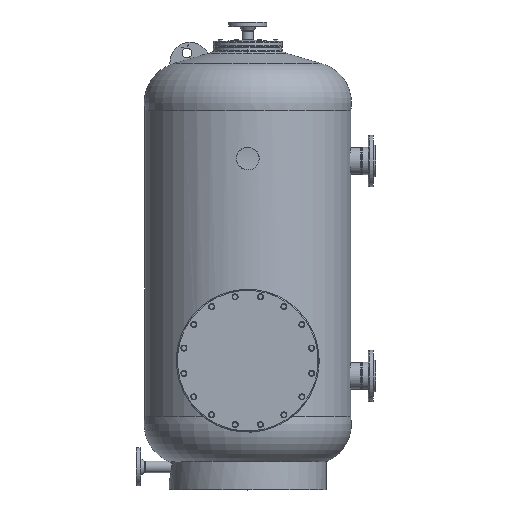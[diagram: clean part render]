
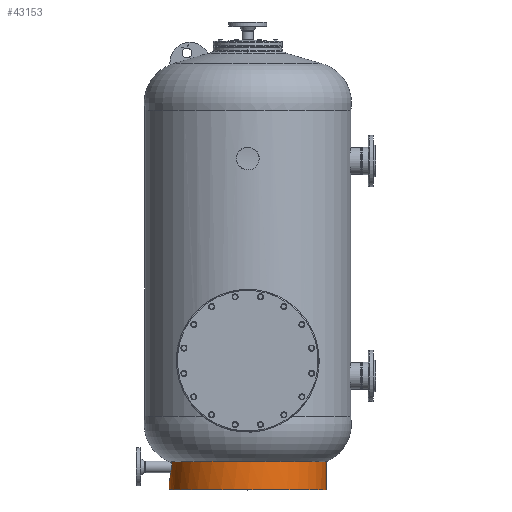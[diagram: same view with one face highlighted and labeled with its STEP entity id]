
A CAD part, top view. The second image highlights one B-rep face of the part: STEP entity #43153.
In plain terms, the highlighted cylindrical face has radius 310 mm (diameter 620 mm), a partial arc.
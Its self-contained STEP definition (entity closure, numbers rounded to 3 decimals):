
#1160 = ORIENTED_EDGE ( 'NONE', *, *, #47929, .F. ) ;
#1946 = CIRCLE ( 'NONE', #3511, 310. ) ;
#2775 = AXIS2_PLACEMENT_3D ( 'NONE', #86145, #34304, #93413 ) ;
#3106 = CARTESIAN_POINT ( 'NONE',  ( 0.462, 39.162, -292.945 ) ) ;
#3511 = AXIS2_PLACEMENT_3D ( 'NONE', #48672, #25498, #4113 ) ;
#4113 = DIRECTION ( 'NONE',  ( 1., 0., 0. ) ) ;
#5727 = CARTESIAN_POINT ( 'NONE',  ( 2.541, 48.531, -270.371 ) ) ;
#6203 = CARTESIAN_POINT ( 'NONE',  ( 2.958, 50.583, -267.305 ) ) ;
#6678 = CARTESIAN_POINT ( 'NONE',  ( 6.402, 71.036, -247.363 ) ) ;
#8730 = VERTEX_POINT ( 'NONE', #29404 ) ;
#9017 = CARTESIAN_POINT ( 'NONE',  ( 8.592, 92.774, -237.557 ) ) ;
#13037 = CARTESIAN_POINT ( 'NONE',  ( 7.864, 83.75, -240.655 ) ) ;
#13517 = CARTESIAN_POINT ( 'NONE',  ( 3.099, 51.288, -266.305 ) ) ;
#13721 = DIRECTION ( 'NONE',  ( 0., 1., 0. ) ) ;
#14484 = VECTOR ( 'NONE', #13721, 1000. ) ;
#16281 = CARTESIAN_POINT ( 'NONE',  ( 7.621, 81.197, -241.715 ) ) ;
#16736 = CARTESIAN_POINT ( 'NONE',  ( 0.936, 41.192, -285.857 ) ) ;
#17248 = EDGE_CURVE ( 'NONE', #20634, #36444, #73219, .T. ) ;
#18631 = CARTESIAN_POINT ( 'NONE',  ( 0.12, 37.722, -300.165 ) ) ;
#19998 = DIRECTION ( 'NONE',  ( 1., 0., 0. ) ) ;
#20270 = CARTESIAN_POINT ( 'NONE',  ( 4.269, 57.465, -258.736 ) ) ;
#20634 = VERTEX_POINT ( 'NONE', #39280 ) ;
#20742 = CARTESIAN_POINT ( 'NONE',  ( 7.931, 84.468, -240.363 ) ) ;
#21420 = CARTESIAN_POINT ( 'NONE',  ( 620., 0., -310.038 ) ) ;
#23496 = CARTESIAN_POINT ( 'NONE',  ( 7.008, 75.751, -244.494 ) ) ;
#25498 = DIRECTION ( 'NONE',  ( 0., -1., 0. ) ) ;
#26335 = DIRECTION ( 'NONE',  ( 0., -1., 0. ) ) ;
#27556 = CARTESIAN_POINT ( 'NONE',  ( 6.052, 68.485, -249.068 ) ) ;
#28038 = CARTESIAN_POINT ( 'NONE',  ( 8.099, 86.345, -239.642 ) ) ;
#28504 = CARTESIAN_POINT ( 'NONE',  ( 1.391, 43.203, -280.699 ) ) ;
#29404 = CARTESIAN_POINT ( 'NONE',  ( 620., 0., -310.038 ) ) ;
#30737 = CARTESIAN_POINT ( 'NONE',  ( 4.947, 61.408, -254.879 ) ) ;
#31765 = VERTEX_POINT ( 'NONE', #95630 ) ;
#32197 = CARTESIAN_POINT ( 'NONE',  ( 1.126, 42.022, -283.544 ) ) ;
#32659 = CARTESIAN_POINT ( 'NONE',  ( 0.604, 39.763, -290.555 ) ) ;
#33555 = CARTESIAN_POINT ( 'NONE',  ( 310., 0., -310.038 ) ) ;
#34304 = DIRECTION ( 'NONE',  ( 0., -1., 0. ) ) ;
#35279 = CARTESIAN_POINT ( 'NONE',  ( 1.905, 45.536, -275.707 ) ) ;
#35769 = CARTESIAN_POINT ( 'NONE',  ( 7.85, 83.604, -240.715 ) ) ;
#36254 = CARTESIAN_POINT ( 'NONE',  ( 4.721, 60.072, -256.14 ) ) ;
#36444 = VERTEX_POINT ( 'NONE', #88544 ) ;
#36730 = CARTESIAN_POINT ( 'NONE',  ( 7.386, 78.986, -242.762 ) ) ;
#38501 = CARTESIAN_POINT ( 'NONE',  ( 8.245, 88.086, -239.016 ) ) ;
#39280 = CARTESIAN_POINT ( 'NONE',  ( 9.209, 112.23, -235.038 ) ) ;
#41293 = ORIENTED_EDGE ( 'NONE', *, *, #17248, .T. ) ;
#43043 = CARTESIAN_POINT ( 'NONE',  ( 5.171, 62.767, -253.646 ) ) ;
#43153 = ADVANCED_FACE ( 'NONE', ( #65052 ), #56339, .T. ) ;
#43519 = CARTESIAN_POINT ( 'NONE',  ( 8.736, 95.146, -236.961 ) ) ;
#43990 = CARTESIAN_POINT ( 'NONE',  ( 9.207, 107.233, -235.047 ) ) ;
#46442 = VECTOR ( 'NONE', #58094, 1000. ) ;
#47929 = EDGE_CURVE ( 'NONE', #73745, #36444, #59029, .T. ) ;
#48231 = ORIENTED_EDGE ( 'NONE', *, *, #94914, .T. ) ;
#48672 = CARTESIAN_POINT ( 'NONE',  ( 310., 112.23, -310.038 ) ) ;
#49792 = CARTESIAN_POINT ( 'NONE',  ( 6.367, 70.778, -247.534 ) ) ;
#51211 = CARTESIAN_POINT ( 'NONE',  ( 8.023, 85.477, -239.966 ) ) ;
#51768 = CARTESIAN_POINT ( 'NONE',  ( 0., 0., -310.038 ) ) ;
#55394 = CARTESIAN_POINT ( 'NONE',  ( 0., 37.23, -310.038 ) ) ;
#55942 = EDGE_LOOP ( 'NONE', ( #1160, #84121, #48231, #90918, #41293 ) ) ;
#56339 = CYLINDRICAL_SURFACE ( 'NONE', #81433, 310. ) ;
#57050 = CARTESIAN_POINT ( 'NONE',  ( 5.32, 63.692, -252.848 ) ) ;
#57521 = CARTESIAN_POINT ( 'NONE',  ( 1.725, 44.71, -277.346 ) ) ;
#58094 = DIRECTION ( 'NONE',  ( 0., 1., 0. ) ) ;
#59029 = LINE ( 'NONE', #51768, #46442 ) ;
#60272 = CARTESIAN_POINT ( 'NONE',  ( 4.871, 60.96, -255.295 ) ) ;
#62227 = CARTESIAN_POINT ( 'NONE',  ( 0., 37.238, -305.062 ) ) ;
#64822 = CARTESIAN_POINT ( 'NONE',  ( 3.385, 52.747, -264.34 ) ) ;
#65052 = FACE_OUTER_BOUND ( 'NONE', #55942, .T. ) ;
#65316 = CARTESIAN_POINT ( 'NONE',  ( 2.277, 47.269, -272.472 ) ) ;
#66277 = CARTESIAN_POINT ( 'NONE',  ( 5.762, 66.523, -250.524 ) ) ;
#72129 = CARTESIAN_POINT ( 'NONE',  ( 3.53, 53.499, -263.377 ) ) ;
#72599 = CARTESIAN_POINT ( 'NONE',  ( 6.471, 71.551, -247.028 ) ) ;
#73219 = B_SPLINE_CURVE_WITH_KNOTS ( 'NONE', 3,
 ( #75378, #43990, #95393, #43519, #9017, #95864, #38501, #28038, #51211, #20742, #79837, #13037, #35769, #16281, #36730, #23496, #93933, #80816, #89881, #72599, #6678, #49792, #27556, #66277, #57050, #43043, #30737, #60272, #36254, #86641, #20270, #79369, #72129, #64822, #13517, #6203, #5727, #65316, #35279, #57521, #87122, #94905, #28504, #32197, #16736, #32659, #3106, #18631, #62227, #55394 ),
 .UNSPECIFIED., .F., .F.,
 ( 4, 2, 2, 2, 1, 1, 2, 2, 2, 2, 1, 2, 2, 2, 2, 2, 2, 2, 2, 2, 2, 1, 2, 2, 2, 2, 4 ),
 ( 0., 0.125, 0.187, 0.219, 0.234, 0.242, 0.246, 0.25, 0.312, 0.344, 0.359, 0.367, 0.375, 0.437, 0.469, 0.484, 0.5, 0.562, 0.594, 0.625, 0.687, 0.719, 0.734, 0.75, 0.812, 0.875, 1. ),
 .UNSPECIFIED. ) ;
#73745 = VERTEX_POINT ( 'NONE', #92360 ) ;
#75378 = CARTESIAN_POINT ( 'NONE',  ( 9.209, 112.23, -235.038 ) ) ;
#79369 = CARTESIAN_POINT ( 'NONE',  ( 3.97, 55.824, -260.546 ) ) ;
#79837 = CARTESIAN_POINT ( 'NONE',  ( 7.891, 84.037, -240.538 ) ) ;
#80816 = CARTESIAN_POINT ( 'NONE',  ( 6.677, 73.11, -246.045 ) ) ;
#81433 = AXIS2_PLACEMENT_3D ( 'NONE', #33555, #26335, #19998 ) ;
#82789 = CIRCLE ( 'NONE', #2775, 310. ) ;
#82848 = EDGE_CURVE ( 'NONE', #8730, #73745, #82789, .T. ) ;
#84121 = ORIENTED_EDGE ( 'NONE', *, *, #82848, .F. ) ;
#86145 = CARTESIAN_POINT ( 'NONE',  ( 310., 0., -310.038 ) ) ;
#86641 = CARTESIAN_POINT ( 'NONE',  ( 4.646, 59.632, -256.569 ) ) ;
#87122 = CARTESIAN_POINT ( 'NONE',  ( 1.556, 43.943, -279.017 ) ) ;
#88544 = CARTESIAN_POINT ( 'NONE',  ( 0., 37.23, -310.038 ) ) ;
#89881 = CARTESIAN_POINT ( 'NONE',  ( 6.575, 72.327, -246.529 ) ) ;
#90918 = ORIENTED_EDGE ( 'NONE', *, *, #95772, .T. ) ;
#92360 = CARTESIAN_POINT ( 'NONE',  ( 0., 0., -310.038 ) ) ;
#93413 = DIRECTION ( 'NONE',  ( 1., 0., 0. ) ) ;
#93662 = LINE ( 'NONE', #21420, #14484 ) ;
#93933 = CARTESIAN_POINT ( 'NONE',  ( 6.877, 74.687, -245.099 ) ) ;
#94905 = CARTESIAN_POINT ( 'NONE',  ( 1.445, 43.445, -280.137 ) ) ;
#94914 = EDGE_CURVE ( 'NONE', #8730, #31765, #93662, .T. ) ;
#95393 = CARTESIAN_POINT ( 'NONE',  ( 9.086, 102.337, -235.528 ) ) ;
#95630 = CARTESIAN_POINT ( 'NONE',  ( 620., 112.23, -310.038 ) ) ;
#95772 = EDGE_CURVE ( 'NONE', #31765, #20634, #1946, .T. ) ;
#95864 = CARTESIAN_POINT ( 'NONE',  ( 8.336, 89.253, -238.629 ) ) ;
